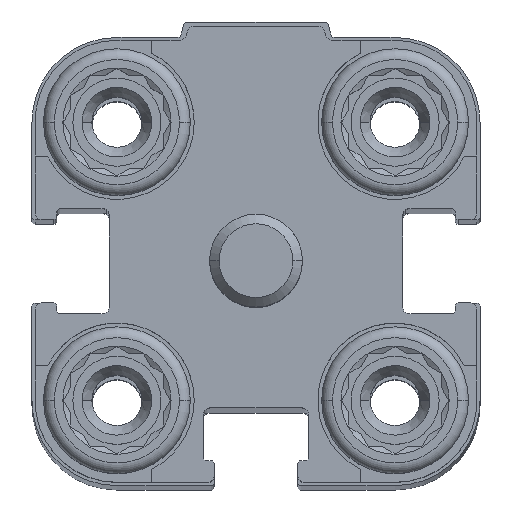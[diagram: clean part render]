
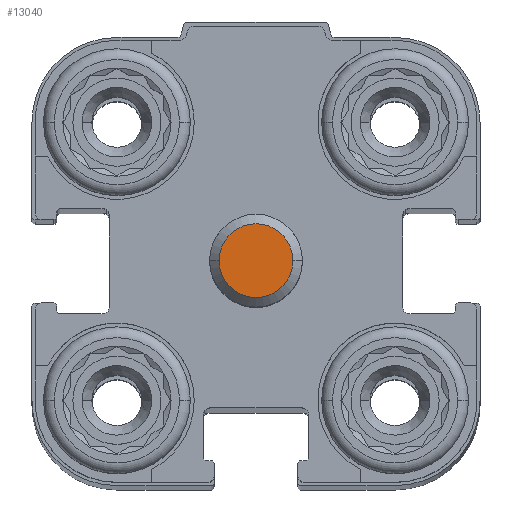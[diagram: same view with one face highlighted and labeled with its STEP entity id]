
A CAD part, top view. The second image highlights one B-rep face of the part: STEP entity #13040.
In plain terms, the highlighted planar face has unit normal (0, 0, 1).
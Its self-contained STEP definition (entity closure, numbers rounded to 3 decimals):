
#446 = EDGE_LOOP ( 'NONE', ( #13211, #11590 ) ) ;
#1529 = DIRECTION ( 'NONE',  ( 0., 0., -1. ) ) ;
#1901 = EDGE_CURVE ( 'NONE', #12482, #14488, #2996, .T. ) ;
#2881 = PLANE ( 'NONE',  #15721 ) ;
#2996 = CIRCLE ( 'NONE', #13058, 2.387 ) ;
#3109 = AXIS2_PLACEMENT_3D ( 'NONE', #17709, #17618, #5332 ) ;
#4603 = DIRECTION ( 'NONE',  ( -1., 0., 0. ) ) ;
#5332 = DIRECTION ( 'NONE',  ( -1., 0., 0. ) ) ;
#6699 = CARTESIAN_POINT ( 'NONE',  ( 2.387, 0., 20.5 ) ) ;
#6946 = CARTESIAN_POINT ( 'NONE',  ( 0., 0., 20.5 ) ) ;
#7024 = DIRECTION ( 'NONE',  ( 0., 1., 0. ) ) ;
#8101 = CARTESIAN_POINT ( 'NONE',  ( 0., 0., 20.5 ) ) ;
#11419 = DIRECTION ( 'NONE',  ( 0., 0., -1. ) ) ;
#11590 = ORIENTED_EDGE ( 'NONE', *, *, #1901, .F. ) ;
#12482 = VERTEX_POINT ( 'NONE', #6699 ) ;
#12879 = CIRCLE ( 'NONE', #3109, 2.387 ) ;
#13040 = ADVANCED_FACE ( 'NONE', ( #15183 ), #2881, .F. ) ;
#13058 = AXIS2_PLACEMENT_3D ( 'NONE', #6946, #11419, #4603 ) ;
#13211 = ORIENTED_EDGE ( 'NONE', *, *, #14105, .F. ) ;
#13731 = CARTESIAN_POINT ( 'NONE',  ( -2.387, 0., 20.5 ) ) ;
#14105 = EDGE_CURVE ( 'NONE', #14488, #12482, #12879, .T. ) ;
#14488 = VERTEX_POINT ( 'NONE', #13731 ) ;
#15183 = FACE_OUTER_BOUND ( 'NONE', #446, .T. ) ;
#15721 = AXIS2_PLACEMENT_3D ( 'NONE', #8101, #1529, #7024 ) ;
#17618 = DIRECTION ( 'NONE',  ( 0., 0., -1. ) ) ;
#17709 = CARTESIAN_POINT ( 'NONE',  ( 0., 0., 20.5 ) ) ;
